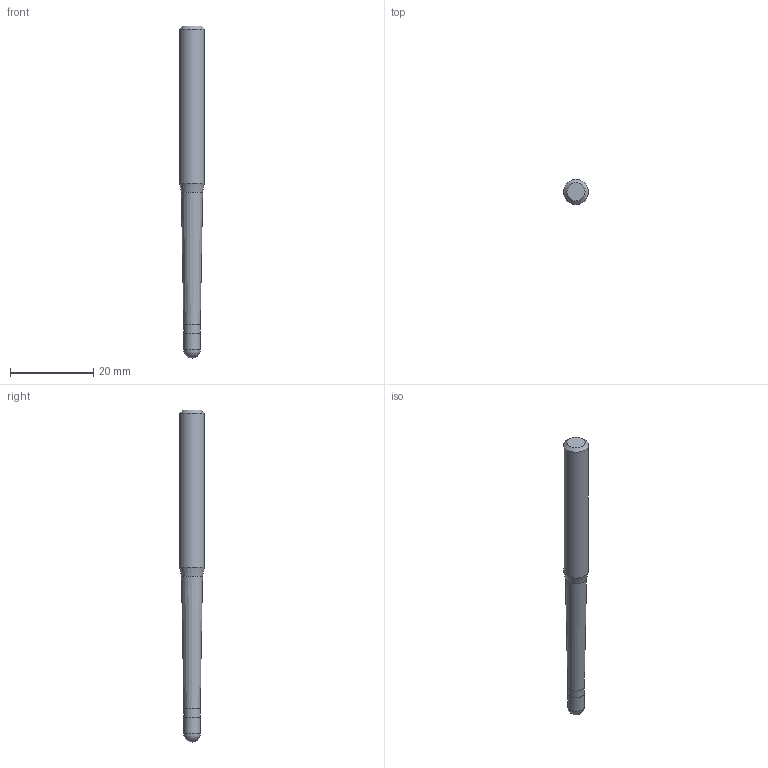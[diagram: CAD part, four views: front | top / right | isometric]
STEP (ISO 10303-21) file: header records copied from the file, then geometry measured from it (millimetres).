
FILE_DESCRIPTION((''),'2;1');
FILE_NAME('C:\Users\nsx150\AppData\Local\Temp\Mastercam 2021\E0ENTZRV18\TEMP.step','2021-09-02T09:57:33',(''),(''),'STEP Write','Mastercam 2021 ... CNC Software, Inc.','');
FILE_SCHEMA(('AUTOMOTIVE_DESIGN'));
Length unit declared in the file: millimetre
Products named in the file (1): None
Bounding box: 6 x 6 x 80 mm (x, y, z)
Volume: 1732.2 mm3; surface area: 1353.4 mm2
Topology: 2 solids, 2 shells, 10 faces, 16 edges, 9 vertices
Faces by surface type: plane 3, cylinder 3, cone 3, sphere 1
Full cylindrical faces by diameter (mm): 3.98 x1, 4 x1, 6 x1
Entity records: 232 total; most frequent: DIRECTION 40, CARTESIAN_POINT 28, AXIS2_PLACEMENT_3D 20, ORIENTED_EDGE 16, EDGE_LOOP 16, STYLED_ITEM 13, ADVANCED_FACE 10, FACE_BOUND 9
